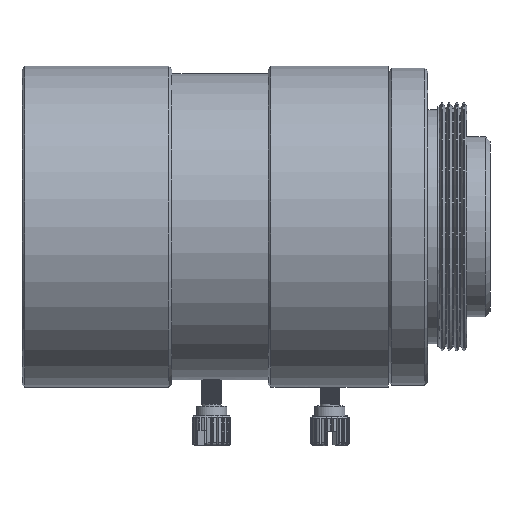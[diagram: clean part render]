
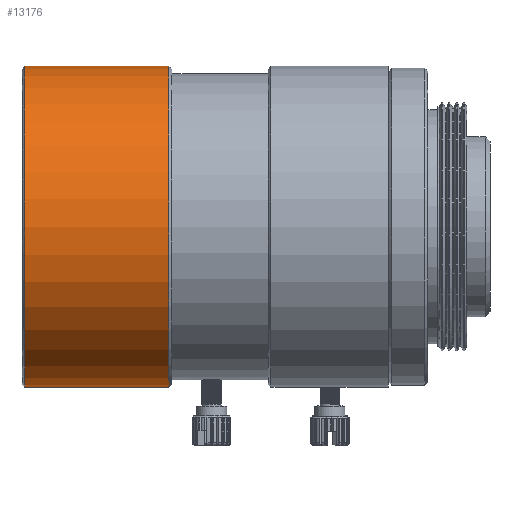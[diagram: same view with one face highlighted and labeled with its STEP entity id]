
A CAD part, front view. The second image highlights one B-rep face of the part: STEP entity #13176.
In plain terms, the highlighted cylindrical face has radius 16.5 mm (diameter 33 mm), a full revolution.
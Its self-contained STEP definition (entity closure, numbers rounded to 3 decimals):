
#2055=FACE_BOUND('',#3446,.T.);
#2699=FACE_OUTER_BOUND('',#3445,.T.);
#3445=EDGE_LOOP('',(#11320));
#3446=EDGE_LOOP('',(#11321));
#4400=CIRCLE('',#14371,16.5);
#4401=CIRCLE('',#14373,16.5);
#5624=VERTEX_POINT('',#60649);
#5625=VERTEX_POINT('',#60652);
#7554=EDGE_CURVE('',#5624,#5624,#4400,.T.);
#7555=EDGE_CURVE('',#5625,#5625,#4401,.T.);
#11320=ORIENTED_EDGE('',*,*,#7554,.T.);
#11321=ORIENTED_EDGE('',*,*,#7555,.F.);
#11873=CYLINDRICAL_SURFACE('',#14372,16.5);
#13176=ADVANCED_FACE('',(#2699,#2055),#11873,.T.);
#14371=AXIS2_PLACEMENT_3D('',#60650,#17027,#17028);
#14372=AXIS2_PLACEMENT_3D('',#60651,#17029,#17030);
#14373=AXIS2_PLACEMENT_3D('',#60653,#17031,#17032);
#17027=DIRECTION('center_axis',(-1.,0.,0.));
#17028=DIRECTION('ref_axis',(0.,0.,-1.));
#17029=DIRECTION('center_axis',(-1.,0.,0.));
#17030=DIRECTION('ref_axis',(0.,-1.,0.));
#17031=DIRECTION('center_axis',(-1.,0.,0.));
#17032=DIRECTION('ref_axis',(0.,0.,-1.));
#60649=CARTESIAN_POINT('',(-17.528,-16.5,0.));
#60650=CARTESIAN_POINT('Origin',(-17.528,0.,0.));
#60651=CARTESIAN_POINT('Origin',(-24.928,0.,0.));
#60652=CARTESIAN_POINT('',(-32.328,-16.5,0.));
#60653=CARTESIAN_POINT('Origin',(-32.328,0.,0.));
